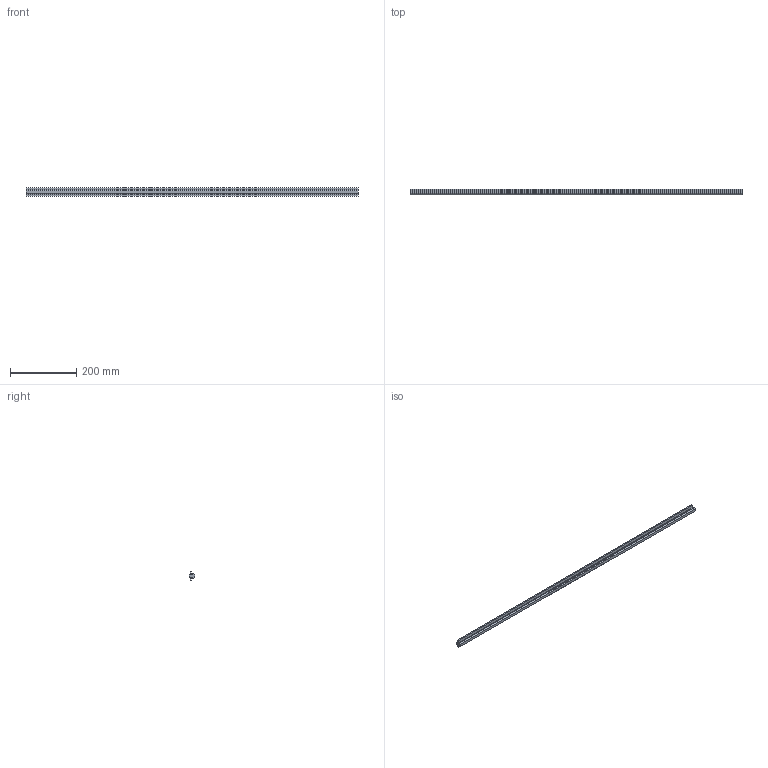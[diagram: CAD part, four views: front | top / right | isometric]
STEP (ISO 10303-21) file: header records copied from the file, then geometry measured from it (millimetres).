
FILE_DESCRIPTION (( 'STEP AP203' ), '1' );
FILE_NAME ('10184_GLE40PASS.STEP', '2018-03-08T13:40:13', ( '' ), ( '' ), 'SwSTEP 2.0', 'SolidWorks 2017', '' );
FILE_SCHEMA (( 'CONFIG_CONTROL_DESIGN' ));
Length unit declared in the file: millimetre
Products named in the file (1): 10184_GLE40PASS
Bounding box: 1000 x 16 x 25 mm (x, y, z)
Volume: 216312.9 mm3; surface area: 90512 mm2
Topology: 1 solids, 1 shells, 21 faces, 57 edges, 38 vertices
Faces by surface type: plane 18, cylinder 3
Entity records: 734 total; most frequent: CARTESIAN_POINT 117, ORIENTED_EDGE 114, DIRECTION 107, EDGE_CURVE 57, VECTOR 51, LINE 51, VERTEX_POINT 38, AXIS2_PLACEMENT_3D 28
